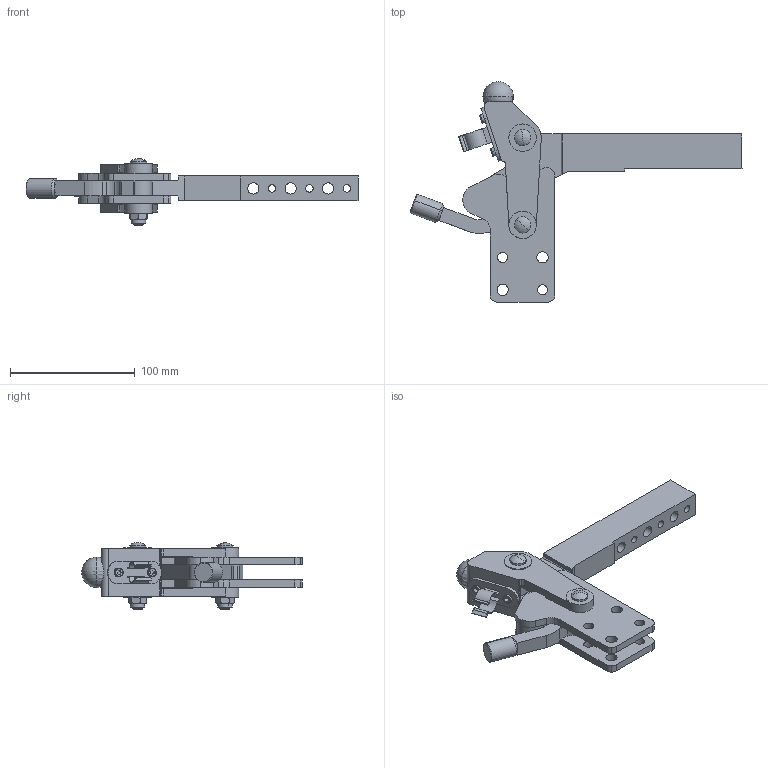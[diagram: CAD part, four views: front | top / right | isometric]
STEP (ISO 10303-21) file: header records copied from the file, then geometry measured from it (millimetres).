
FILE_DESCRIPTION((''),'2;1');
FILE_NAME('C:\Documents and Settings\clare\My Documents\STPS\M20-01-97-RM1.stp','2009-11-29T21:45:45',('clare'),(''),'Autodesk Inventor 8','Autodesk Inventor 8','');
FILE_SCHEMA(('AUTOMOTIVE_DESIGN { 1 0 10303 214 1 1 1 1 }'));
Length unit declared in the file: millimetre
Products named in the file (6): M20-01-97-RM1; M20-01-97-RM11; M20-01-97-RM12; M20-01-97-RM13; M20-01-97-RM14; M20-01-97-RM15
Assembly tree (5 placements, depth 2):
  M20-01-97-RM1
    M20-01-97-RM11
    M20-01-97-RM12
    M20-01-97-RM13
    M20-01-97-RM14
    M20-01-97-RM15
Bounding box: 266.29 x 176.91 x 53.77 mm (x, y, z)
Volume: 268406.7 mm3; surface area: 89638.9 mm2
Topology: 5 solids, 10 shells, 455 faces, 1173 edges, 754 vertices
Faces by surface type: plane 229, cylinder 132, bspline 60, cone 24, sphere 6, torus 4
Entity records: 14907 total; most frequent: CARTESIAN_POINT 3488, DIRECTION 2433, ORIENTED_EDGE 2332, EDGE_CURVE 1166, AXIS2_PLACEMENT_3D 887, VERTEX_POINT 753, VECTOR 659, LINE 659
